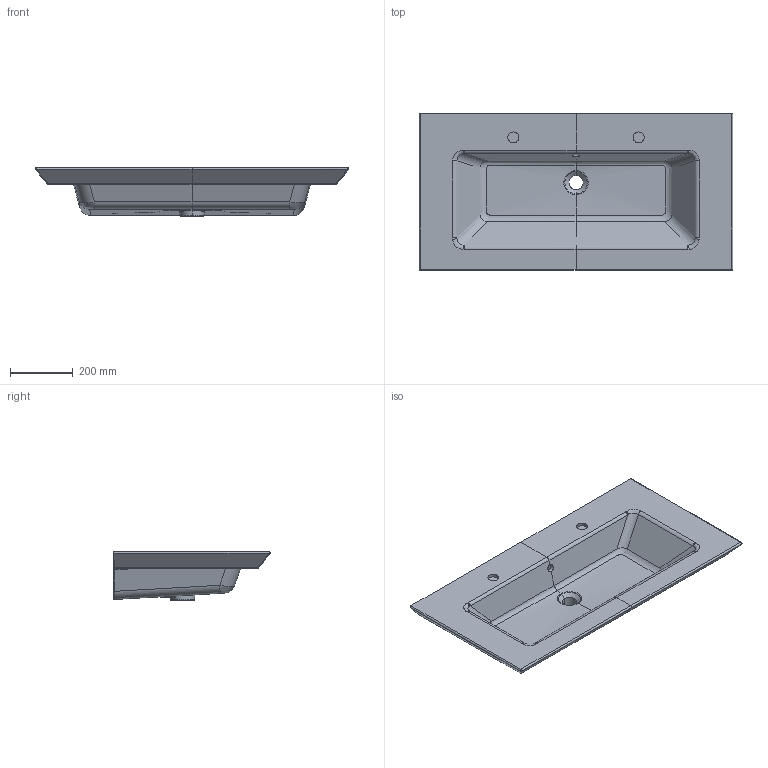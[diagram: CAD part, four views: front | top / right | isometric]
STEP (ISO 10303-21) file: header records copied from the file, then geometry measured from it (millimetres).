
FILE_DESCRIPTION(/* description */ (''),/* implementation_level */ '2;1');
FILE_NAME(/* name */ '4153A1_Legato_WT100.stp',/* time_stamp */ '2018-11-13T13:27:44+01:00',/* author */ (''),/* organization */ (''),/* preprocessor_version */ 'ST-DEVELOPER v16',/* originating_system */ 'SIEMENS PLM Software NX 10.0',/* authorisation */ '');
FILE_SCHEMA (('AUTOMOTIVE_DESIGN { 1 0 10303 214 3 1 1 1 }'));
Length unit declared in the file: millimetre
Products named in the file (1): Sier16ECC73F4re1
Bounding box: 1000.8 x 500.42 x 155 mm (x, y, z)
Volume: 31452911.1 mm3; surface area: 1368130.4 mm2
Topology: 1 solids, 1 shells, 154 faces, 390 edges, 231 vertices
Faces by surface type: bspline 68, cylinder 47, plane 36, cone 2, extrusion 1
Full cylindrical faces by diameter (mm): 24 x1, 35 x2
Entity records: 8819 total; most frequent: CARTESIAN_POINT 5956, ORIENTED_EDGE 756, EDGE_CURVE 378, DIRECTION 357, VERTEX_POINT 230, B_SPLINE_CURVE_WITH_KNOTS 201, EDGE_LOOP 160, ADVANCED_FACE 154
